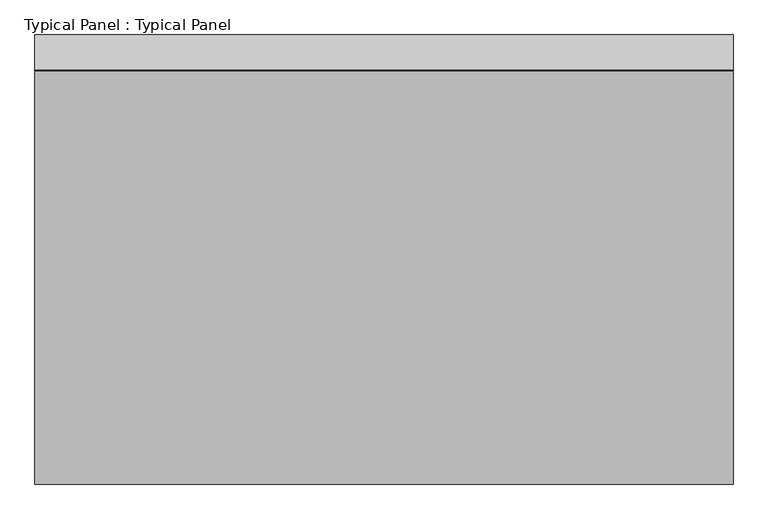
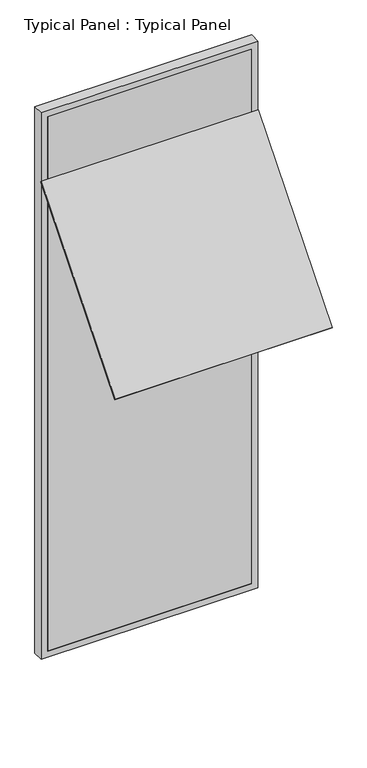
"""IFC4 building model written with IfcOpenShell, lengths in millimetres: plate geometry, Typical Panel : Typical Panel."""

from ifc_helpers import new_model, si_unit, frame, origin, place, context, project, spatial, polyline, outline, extrude, source, transform, mapped, element, save


def typical_panel_typical_panel_ce5b174f(model_context):
    return source(origin(), model_context, "Body", "SweptSolid", [
        extrude(outline(polyline([(0.0, -10.0000001), (0.0, 0.0), (1500.0, 0.0), (1500.0, -10.0000001), (0.0, -10.0000001)])), frame((750.0, -892.0469014, 2442.8586685), z_axis=(0.0, 0.642787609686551, 0.7660444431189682), x_axis=(-1.0, 0.0, 0.0)), (0.0, 0.0, 1.0), 1380.0),
        extrude(outline(polyline([(0.0, -750.0), (0.0, 750.0), (4000.0, 750.0), (4000.0, -750.0), (0.0, -750.0)]), holes=[polyline([(45.0, 705.0), (45.0, -705.0), (3955.0, -705.0), (3955.0, 705.0), (45.0, 705.0)])]), frame((0.0, -1.5797986, 0.0), z_axis=(0.0, 1.0, 0.0), x_axis=(0.0, 0.0, 1.0)), (0.0, 0.0, 1.0), 75.0),
        extrude(outline(polyline([(705.0, -1.5797986), (-705.0, -1.5797986), (-705.0, 13.4202014), (705.0, 13.4202014), (705.0, -1.5797986)])), frame((0.0, 0.0, 45.0), z_axis=(0.0, 0.0, 1.0), x_axis=(1.0, 0.0, 0.0)), (0.0, 0.0, 1.0), 3910.0),
    ])


if __name__ == "__main__":
    model = new_model("IFC4")
    model_context = context("Model", 3, world=origin())
    ifc_project = project(units=[si_unit("LENGTHUNIT", "METRE", prefix="MILLI")], contexts=[model_context])
    site = spatial("IfcSite", under=ifc_project)
    building = spatial("IfcBuilding", under=site)
    placement = place(None, origin())
    typical_panel_typical_panel_shape = typical_panel_typical_panel_ce5b174f(model_context)
    element("IfcPlate", 1, ObjectType="Typical Panel : Typical Panel", at=placement, inside=building, context=model_context, shape_type="MappedRepresentation", body=[
        mapped(typical_panel_typical_panel_shape, transform((0.0, 0.0, 0.0), x_axis=(1.0, 0.0, 0.0), y_axis=(0.0, 1.0, 0.0), z_axis=(0.0, 0.0, 1.0))),
    ])
    save(model, "model.ifc")
